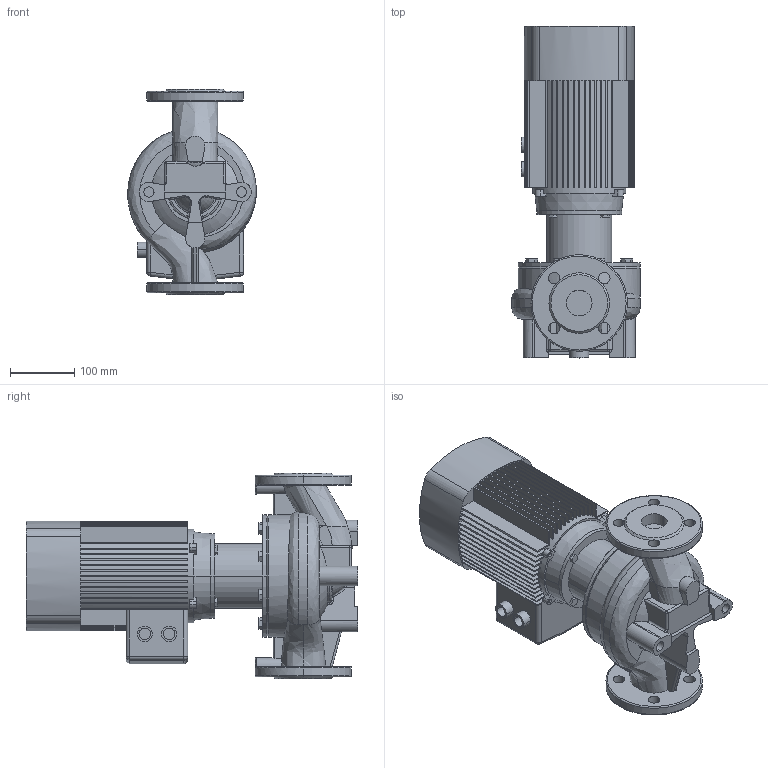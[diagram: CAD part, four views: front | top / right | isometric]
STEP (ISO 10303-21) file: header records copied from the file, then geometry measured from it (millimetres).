
FILE_DESCRIPTION (( 'STEP AP203' ), '1' );
FILE_NAME ('TD40-20G_2.STEP', '2022-05-02T14:03:33', ( '' ), ( '' ), 'SwSTEP 2.0', 'SolidWorks 2019', '' );
FILE_SCHEMA (( 'CONFIG_CONTROL_DESIGN' ));
Length unit declared in the file: millimetre
Products named in the file (4): Fon_40_TD40-20G_2; Pr_ch 40_TD40-20G_2; TD40-20G_2; ED_B14_YE2-90L-2 (2.2)
Assembly tree (3 placements, depth 2):
  TD40-20G_2
    Pr_ch 40_TD40-20G_2
    Fon_40_TD40-20G_2
    ED_B14_YE2-90L-2 (2.2)
Bounding box: 200.1 x 516 x 320 mm (x, y, z)
Volume: 11014742.1 mm3; surface area: 866441 mm2
Topology: 3 solids, 4 shells, 644 faces, 1743 edges, 1136 vertices
Faces by surface type: plane 397, cylinder 167, bspline 34, torus 25, cone 11, sphere 10
Entity records: 26958 total; most frequent: CARTESIAN_POINT 10216, ORIENTED_EDGE 3478, DIRECTION 3404, EDGE_CURVE 1739, AXIS2_PLACEMENT_3D 1225, VERTEX_POINT 1136, VECTOR 954, LINE 954
